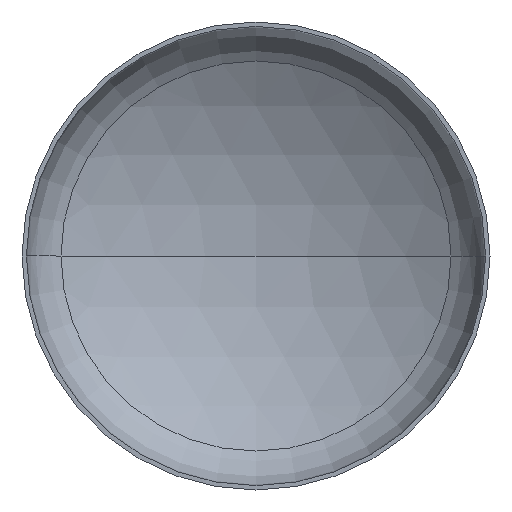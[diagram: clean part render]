
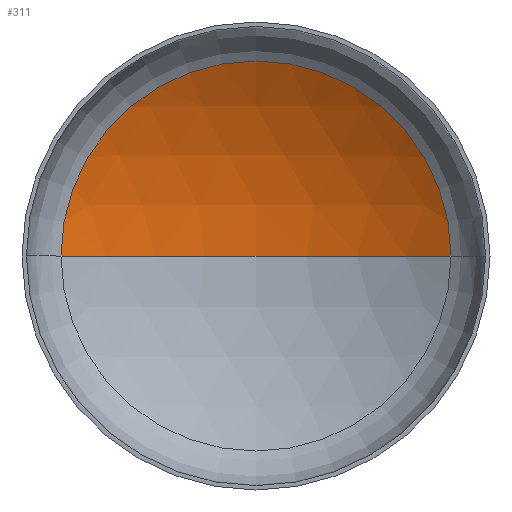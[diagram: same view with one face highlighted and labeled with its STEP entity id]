
A CAD part, front view. The second image highlights one B-rep face of the part: STEP entity #311.
In plain terms, the highlighted spherical face has radius 2880 mm.
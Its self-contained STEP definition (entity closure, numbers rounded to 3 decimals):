
#16 = AXIS2_PLACEMENT_3D ( 'NONE', #161, #156, #77 ) ;
#17 = DIRECTION ( 'NONE',  ( 0., 0., 1. ) ) ;
#34 = AXIS2_PLACEMENT_3D ( 'NONE', #409, #17, #365 ) ;
#37 = AXIS2_PLACEMENT_3D ( 'NONE', #184, #118, #78 ) ;
#41 = AXIS2_PLACEMENT_3D ( 'NONE', #291, #224, #220 ) ;
#43 = CIRCLE ( 'NONE', #37, 2880. ) ;
#74 = VERTEX_POINT ( 'NONE', #232 ) ;
#77 = DIRECTION ( 'NONE',  ( -1., 0., 0. ) ) ;
#78 = DIRECTION ( 'NONE',  ( -1., 0., 0. ) ) ;
#82 = ORIENTED_EDGE ( 'NONE', *, *, #103, .T. ) ;
#86 = VERTEX_POINT ( 'NONE', #361 ) ;
#95 = EDGE_CURVE ( 'NONE', #86, #191, #251, .T. ) ;
#101 = ORIENTED_EDGE ( 'NONE', *, *, #112, .F. ) ;
#103 = EDGE_CURVE ( 'NONE', #74, #86, #43, .T. ) ;
#110 = CARTESIAN_POINT ( 'NONE',  ( -1500.077, 583.771, 0. ) ) ;
#112 = EDGE_CURVE ( 'NONE', #74, #191, #366, .T. ) ;
#118 = DIRECTION ( 'NONE',  ( 0., 0., -1. ) ) ;
#156 = DIRECTION ( 'NONE',  ( 0., 0., -1. ) ) ;
#161 = CARTESIAN_POINT ( 'NONE',  ( 0., -1874.718, 0. ) ) ;
#184 = CARTESIAN_POINT ( 'NONE',  ( 0., -1874.718, 0. ) ) ;
#191 = VERTEX_POINT ( 'NONE', #110 ) ;
#210 = FACE_OUTER_BOUND ( 'NONE', #278, .T. ) ;
#220 = DIRECTION ( 'NONE',  ( 1., 0., 0. ) ) ;
#222 = SPHERICAL_SURFACE ( 'NONE', #16, 2880. ) ;
#224 = DIRECTION ( 'NONE',  ( 0., -1., 0. ) ) ;
#232 = CARTESIAN_POINT ( 'NONE',  ( 0., 1005.282, 0. ) ) ;
#251 = CIRCLE ( 'NONE', #41, 1500.077 ) ;
#278 = EDGE_LOOP ( 'NONE', ( #101, #82, #339 ) ) ;
#291 = CARTESIAN_POINT ( 'NONE',  ( 0., 583.771, 0. ) ) ;
#311 = ADVANCED_FACE ( 'NONE', ( #210 ), #222, .F. ) ;
#339 = ORIENTED_EDGE ( 'NONE', *, *, #95, .T. ) ;
#361 = CARTESIAN_POINT ( 'NONE',  ( 1500.077, 583.771, 0. ) ) ;
#365 = DIRECTION ( 'NONE',  ( 1., 0., 0. ) ) ;
#366 = CIRCLE ( 'NONE', #34, 2880. ) ;
#409 = CARTESIAN_POINT ( 'NONE',  ( 0., -1874.718, 0. ) ) ;
